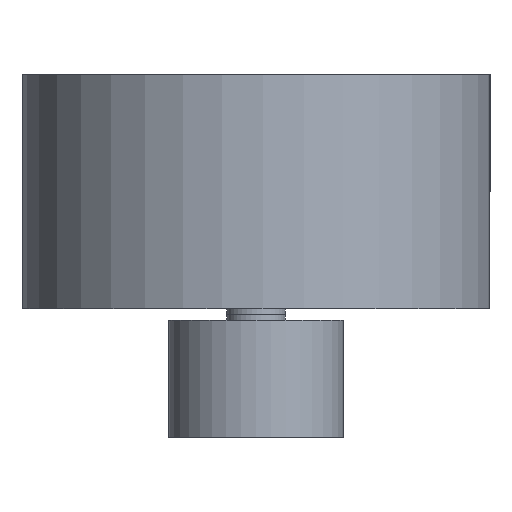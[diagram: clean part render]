
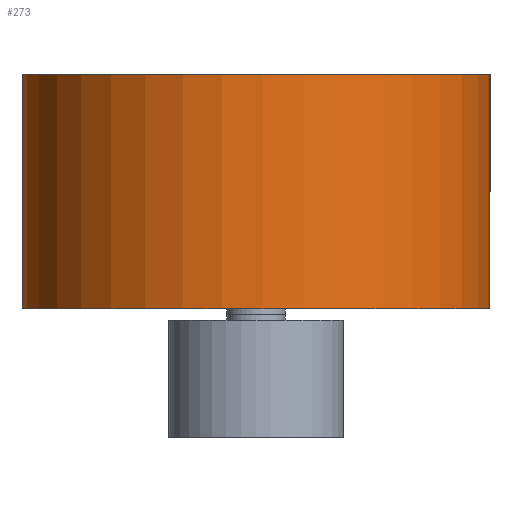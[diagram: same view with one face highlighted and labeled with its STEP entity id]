
A CAD part, left-side view. The second image highlights one B-rep face of the part: STEP entity #273.
In plain terms, the highlighted cylindrical face has radius 40 mm (diameter 80 mm), a full revolution.
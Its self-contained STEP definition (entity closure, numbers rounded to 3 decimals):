
#68=FACE_BOUND('',#115,.T.);
#87=FACE_OUTER_BOUND('',#114,.T.);
#114=EDGE_LOOP('',(#222));
#115=EDGE_LOOP('',(#223));
#134=CIRCLE('',#351,40.);
#135=CIRCLE('',#352,40.);
#154=VERTEX_POINT('',#511);
#155=VERTEX_POINT('',#513);
#178=EDGE_CURVE('',#154,#154,#134,.T.);
#179=EDGE_CURVE('',#155,#155,#135,.T.);
#222=ORIENTED_EDGE('',*,*,#178,.F.);
#223=ORIENTED_EDGE('',*,*,#179,.T.);
#235=CYLINDRICAL_SURFACE('',#350,40.);
#273=ADVANCED_FACE('',(#87,#68),#235,.T.);
#350=AXIS2_PLACEMENT_3D('',#510,#433,#434);
#351=AXIS2_PLACEMENT_3D('',#512,#435,#436);
#352=AXIS2_PLACEMENT_3D('',#514,#437,#438);
#433=DIRECTION('center_axis',(0.,0.,-1.));
#434=DIRECTION('ref_axis',(-1.,0.,0.));
#435=DIRECTION('center_axis',(0.,0.,-1.));
#436=DIRECTION('ref_axis',(-1.,0.,0.));
#437=DIRECTION('center_axis',(0.,0.,-1.));
#438=DIRECTION('ref_axis',(-1.,0.,0.));
#510=CARTESIAN_POINT('Origin',(0.,0.,0.));
#511=CARTESIAN_POINT('',(40.,0.,-40.));
#512=CARTESIAN_POINT('Origin',(0.,0.,-40.));
#513=CARTESIAN_POINT('',(40.,0.,0.));
#514=CARTESIAN_POINT('Origin',(0.,0.,0.));
